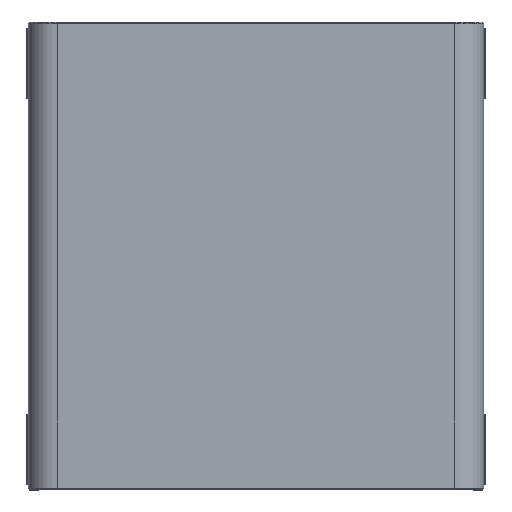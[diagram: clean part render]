
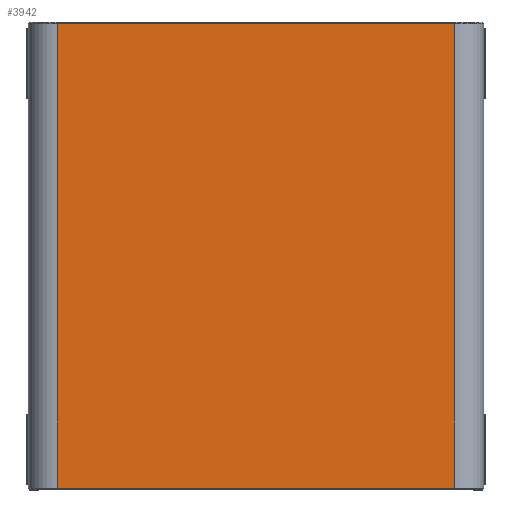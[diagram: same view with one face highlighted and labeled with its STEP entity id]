
A CAD part, top view. The second image highlights one B-rep face of the part: STEP entity #3942.
In plain terms, the highlighted planar face has unit normal (0, 0, 1).
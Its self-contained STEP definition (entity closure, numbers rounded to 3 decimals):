
#3463=CARTESIAN_POINT('',(170.0,-199.,10.0));
#3464=VERTEX_POINT('',#3463);
#3488=CARTESIAN_POINT('',(-170.0,-199.,10.0));
#3489=VERTEX_POINT('',#3488);
#3490=CARTESIAN_POINT('',(170.0,-199.0,10.0));
#3491=DIRECTION('',(-1.0,0.0,0.0));
#3492=VECTOR('',#3491,340.0);
#3493=LINE('',#3490,#3492);
#3494=EDGE_CURVE('',#3464,#3489,#3493,.T.);
#3694=CARTESIAN_POINT('',(-170.0,199.,10.0));
#3695=VERTEX_POINT('',#3694);
#3727=CARTESIAN_POINT('',(170.,199.0,10.0));
#3728=VERTEX_POINT('',#3727);
#3729=CARTESIAN_POINT('',(-170.0,199.0,10.0));
#3730=DIRECTION('',(1.0,0.0,0.0));
#3731=VECTOR('',#3730,340.);
#3732=LINE('',#3729,#3731);
#3733=EDGE_CURVE('',#3695,#3728,#3732,.T.);
#3910=CARTESIAN_POINT('',(-170.0,199.,10.0));
#3911=DIRECTION('',(0.0,-1.0,0.0));
#3912=VECTOR('',#3911,398.);
#3913=LINE('',#3910,#3912);
#3914=EDGE_CURVE('',#3695,#3489,#3913,.T.);
#3926=CARTESIAN_POINT('',(0.,0.,10.0));
#3927=DIRECTION('',(0.0,0.0,1.0));
#3928=DIRECTION('',(1.0,0.0,0.0));
#3929=AXIS2_PLACEMENT_3D('',#3926,#3927,#3928);
#3930=PLANE('',#3929);
#3931=ORIENTED_EDGE('',*,*,#3494,.F.);
#3932=CARTESIAN_POINT('',(170.,-199.,10.0));
#3933=DIRECTION('',(0.0,1.0,0.0));
#3934=VECTOR('',#3933,398.);
#3935=LINE('',#3932,#3934);
#3936=EDGE_CURVE('',#3464,#3728,#3935,.T.);
#3937=ORIENTED_EDGE('',*,*,#3936,.T.);
#3938=ORIENTED_EDGE('',*,*,#3733,.F.);
#3939=ORIENTED_EDGE('',*,*,#3914,.T.);
#3940=EDGE_LOOP('',(#3931,#3937,#3938,#3939));
#3941=FACE_OUTER_BOUND('',#3940,.T.);
#3942=ADVANCED_FACE('',(#3941),#3930,.T.);
